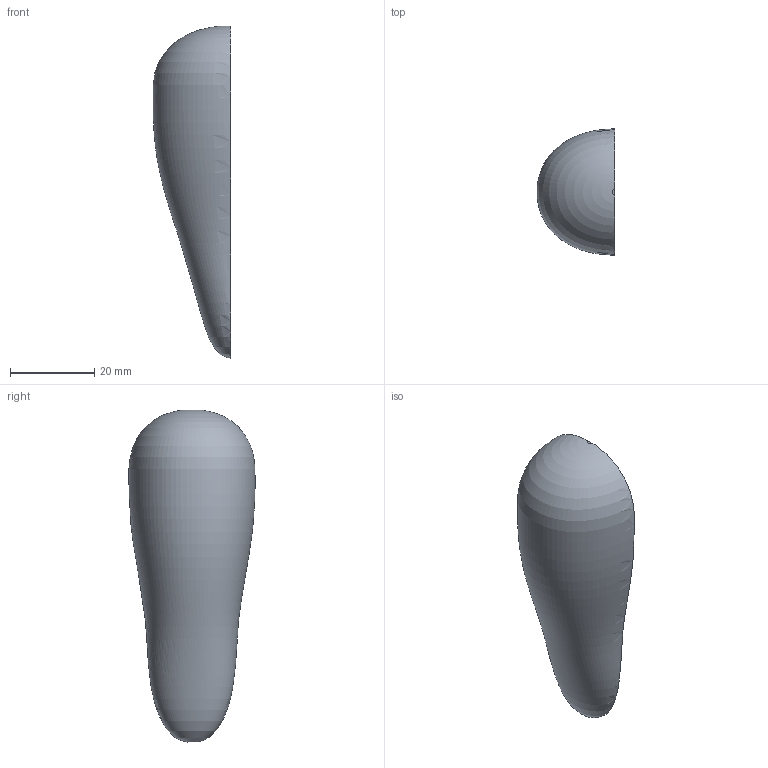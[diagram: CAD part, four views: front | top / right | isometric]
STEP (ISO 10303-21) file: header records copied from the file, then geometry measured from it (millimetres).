
FILE_DESCRIPTION(('Open CASCADE Model'),'2;1');
FILE_NAME('Open CASCADE Shape Model','2026-11-11T21:47:38',('Author'),( 'Open CASCADE'),'Open CASCADE STEP processor 8.0','build123d', 'Unknown');
FILE_SCHEMA(('AUTOMOTIVE_DESIGN { 1 0 10303 214 1 1 1 1 }'));
Length unit declared in the file: millimetre
Products named in the file (1): SOLID
Bounding box: 18.45 x 29.99 x 78.86 mm (x, y, z)
Volume: 6115.4 mm3; surface area: 6503 mm2
Topology: 1 solids, 1 shells, 7 faces, 12 edges, 8 vertices
Faces by surface type: plane 5, bspline 2
Entity records: 29140 total; most frequent: CARTESIAN_POINT 28908, DIRECTION 28, ORIENTED_EDGE 24, PCURVE 24, DEFINITIONAL_REPRESENTATION 24, B_SPLINE_CURVE_WITH_KNOTS 20, LINE 16, VECTOR 16
